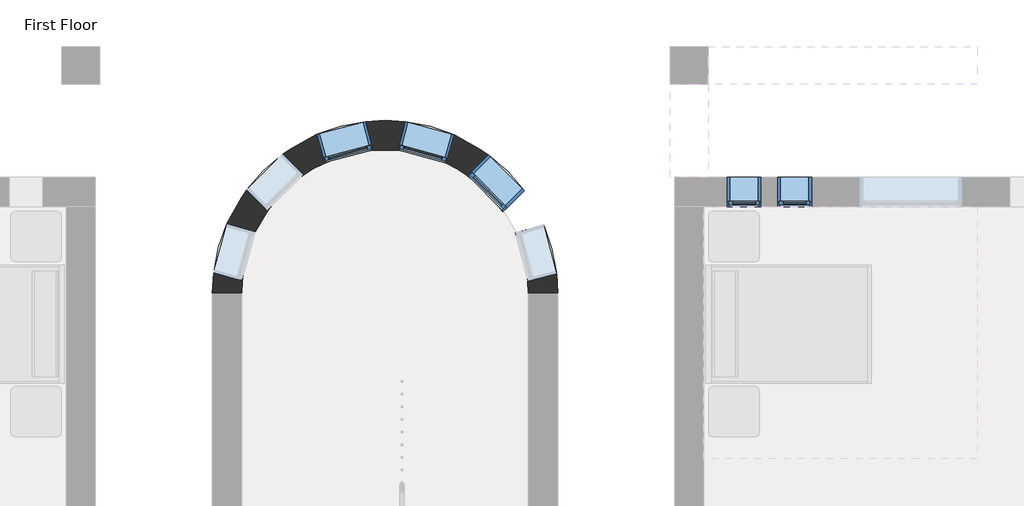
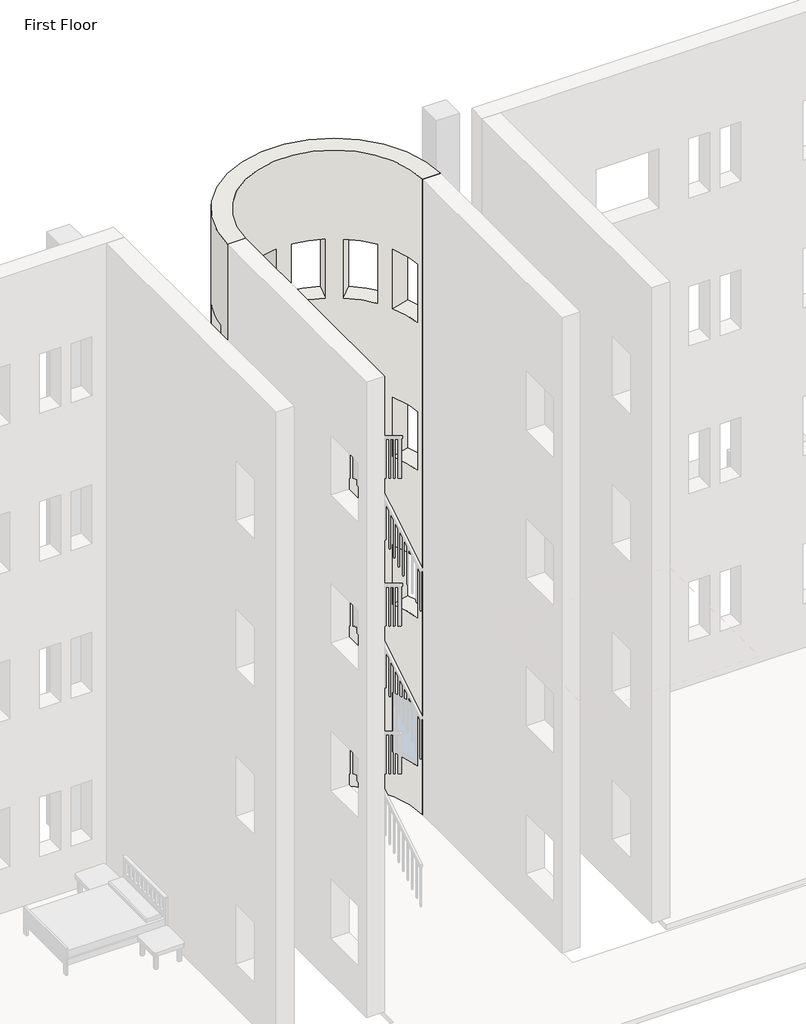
# One storey, part 15 of 21: 5 windows, 1 wall.
"""IFC4 building model written with IfcOpenShell, lengths in millimetres."""

from ifc_helpers import new_model, si_unit, frame, origin, place, context, project, spatial, polyline, circle_curve, transform, mapped, element, save
from ifc_brep_helpers import plane_surface, cylinder_surface, revolved_surface, advanced_brep
from components import window_da97879f, window_60baf983

model = new_model("IFC4")

# Units and contexts
model_context = context("Model", 3, world=origin())
ifc_project = project(units=[si_unit("LENGTHUNIT", "METRE", prefix="MILLI")], contexts=[model_context])

# Site, building, storey
site = spatial("IfcSite", under=ifc_project)
building = spatial("IfcBuilding", under=site)
storey = spatial("IfcBuildingStorey", under=building, Name="First Floor", Elevation=0.0)

# Wall
placement = place(None, origin())
element("IfcWall", 1, ObjectType="Exterior - Brick on Mtl. Stud", at=placement, inside=storey, context=model_context, shape_type="AdvancedBrep", body=[
    advanced_brep(
    [(-12980.9589563, 9227.0316867, 13106.4), (-17143.3839563, 9227.0316867, 13106.4), (-16790.9589563, 9227.0316867, 13106.4), (-13333.3839563, 9227.0316867, 13106.4), (-17143.3839563, 9227.0316867, 0.0), (-12980.9589563, 9227.0316867, 0.0), (-13333.3839563, 9227.0316867, 0.0), (-16790.9589563, 9227.0316867, 0.0), (-13149.9261748, 10048.4715527, 8229.6), (-13149.9261748, 10048.4715527, 7010.4), (-12993.9452701, 9459.1650812, 7010.4), (-12993.9452701, 9459.1650812, 8229.6), (-13816.8383973, 10894.5421191, 8229.6), (-13816.8383973, 10894.5421191, 7010.4), (-13387.1017356, 10462.1781965, 7010.4), (-13387.1017356, 10462.1781965, 8229.6), (-14817.4366072, 11293.8046118, 8229.6), (-14817.4366072, 11293.8046118, 7010.4), (-14229.0917799, 11134.234802, 7010.4), (-14229.0917799, 11134.234802, 8229.6), (-15883.6113224, 11139.2769682, 8229.6), (-15883.6113224, 11139.2769682, 7010.4), (-15294.3048508, 11295.2578729, 7010.4), (-15294.3048508, 11295.2578729, 8229.6), (-16729.6818887, 10472.3647457, 8229.6), (-16729.6818887, 10472.3647457, 7010.4), (-16297.3179661, 10902.1014074, 7010.4), (-16297.3179661, 10902.1014074, 8229.6), (-17128.9443814, 9471.7665358, 8229.6), (-17128.9443814, 9471.7665358, 7010.4), (-16969.3745716, 10060.1113631, 7010.4), (-16969.3745716, 10060.1113631, 8229.6), (-13149.9261748, 10048.4715527, 5181.6), (-13149.9261748, 10048.4715527, 3962.4), (-12993.9452701, 9459.1650812, 3962.4), (-12993.9452701, 9459.1650812, 5181.6), (-13816.8383973, 10894.5421191, 5181.6), (-13816.8383973, 10894.5421191, 3962.4), (-13387.1017356, 10462.1781965, 3962.4), (-13387.1017356, 10462.1781965, 5181.6), (-14817.4366072, 11293.8046118, 5181.6), (-14817.4366072, 11293.8046118, 3962.4), (-14229.0917799, 11134.234802, 3962.4), (-14229.0917799, 11134.234802, 5181.6), (-15883.6113224, 11139.2769682, 5181.6), (-15883.6113224, 11139.2769682, 3962.4), (-15294.3048508, 11295.2578729, 3962.4), (-15294.3048508, 11295.2578729, 5181.6), (-16729.6818887, 10472.3647457, 5181.6), (-16729.6818887, 10472.3647457, 3962.4), (-16297.3179661, 10902.1014074, 3962.4), (-16297.3179661, 10902.1014074, 5181.6), (-17128.9443814, 9471.7665358, 5181.6), (-17128.9443814, 9471.7665358, 3962.4), (-16969.3745716, 10060.1113631, 3962.4), (-16969.3745716, 10060.1113631, 5181.6), (-13149.9261748, 10048.4715527, 11277.6), (-13149.9261748, 10048.4715527, 10058.4), (-12993.9452701, 9459.1650812, 10058.4), (-12993.9452701, 9459.1650812, 11277.6), (-13816.8383973, 10894.5421191, 11277.6), (-13816.8383973, 10894.5421191, 10058.4), (-13387.1017356, 10462.1781965, 10058.4), (-13387.1017356, 10462.1781965, 11277.6), (-14817.4366072, 11293.8046118, 11277.6), (-14817.4366072, 11293.8046118, 10058.4), (-14229.0917799, 11134.234802, 10058.4), (-14229.0917799, 11134.234802, 11277.6), (-15883.6113224, 11139.2769682, 11277.6), (-15883.6113224, 11139.2769682, 10058.4), (-15294.3048508, 11295.2578729, 10058.4), (-15294.3048508, 11295.2578729, 11277.6), (-16729.6818887, 10472.3647457, 11277.6), (-16729.6818887, 10472.3647457, 10058.4), (-16297.3179661, 10902.1014074, 10058.4), (-16297.3179661, 10902.1014074, 11277.6), (-17128.9443814, 9471.7665358, 11277.6), (-17128.9443814, 9471.7665358, 10058.4), (-16969.3745716, 10060.1113631, 10058.4), (-16969.3745716, 10060.1113631, 11277.6), (-13149.9261748, 10048.4715527, 2133.6), (-13149.9261748, 10048.4715527, 914.4), (-12993.9452701, 9459.1650812, 914.4), (-12993.9452701, 9459.1650812, 2133.6), (-13816.8383973, 10894.5421191, 2133.6), (-13816.8383973, 10894.5421191, 914.4), (-13387.1017356, 10462.1781965, 914.4), (-13387.1017356, 10462.1781965, 2133.6), (-14817.4366072, 11293.8046118, 2133.6), (-14817.4366072, 11293.8046118, 914.4), (-14229.0917799, 11134.234802, 914.4), (-14229.0917799, 11134.234802, 2133.6), (-15883.6113224, 11139.2769682, 2133.6), (-15883.6113224, 11139.2769682, 914.4), (-15294.3048508, 11295.2578729, 914.4), (-15294.3048508, 11295.2578729, 2133.6), (-16729.6818887, 10472.3647457, 2133.6), (-16729.6818887, 10472.3647457, 914.4), (-16297.3179661, 10902.1014074, 914.4), (-16297.3179661, 10902.1014074, 2133.6), (-17128.9443814, 9471.7665358, 914.4), (-16969.3745716, 10060.1113631, 914.4), (-16969.3745716, 10060.1113631, 2133.6), (-17128.9443814, 9471.7665358, 2133.6), (-13495.1055834, 9957.1075528, 7010.4), (-13495.1055834, 9957.1075528, 8229.6), (-13339.1246787, 9367.8010813, 8229.6), (-13339.1246787, 9367.8010813, 7010.4), (-14070.090534, 10642.8288698, 7010.4), (-14070.090534, 10642.8288698, 8229.6), (-13640.3538723, 10210.4649472, 8229.6), (-13640.3538723, 10210.4649472, 7010.4), (-14910.9027666, 10949.188475, 7010.4), (-14910.9027666, 10949.188475, 8229.6), (-14322.5579393, 10789.6186653, 8229.6), (-14322.5579393, 10789.6186653, 7010.4), (-15792.2473224, 10794.0975596, 7010.4), (-15792.2473224, 10794.0975596, 8229.6), (-15202.9408509, 10950.0784643, 8229.6), (-15202.9408509, 10950.0784643, 7010.4), (-16477.9686395, 10219.112609, 7010.4), (-16477.9686395, 10219.112609, 8229.6), (-16045.6047169, 10648.8492707, 8229.6), (-16045.6047169, 10648.8492707, 7010.4), (-16784.3282447, 9378.3003764, 7010.4), (-16784.3282447, 9378.3003764, 8229.6), (-16624.7584349, 9966.6452037, 8229.6), (-16624.7584349, 9966.6452037, 7010.4), (-13495.1055834, 9957.1075528, 3962.4), (-13495.1055834, 9957.1075528, 5181.6), (-13339.1246787, 9367.8010813, 5181.6), (-13339.1246787, 9367.8010813, 3962.4), (-14070.090534, 10642.8288698, 3962.4), (-14070.090534, 10642.8288698, 5181.6), (-13640.3538723, 10210.4649472, 5181.6), (-13640.3538723, 10210.4649472, 3962.4), (-14910.9027666, 10949.188475, 3962.4), (-14910.9027666, 10949.188475, 5181.6), (-14322.5579393, 10789.6186653, 5181.6), (-14322.5579393, 10789.6186653, 3962.4), (-15792.2473224, 10794.0975596, 3962.4), (-15792.2473224, 10794.0975596, 5181.6), (-15202.9408509, 10950.0784643, 5181.6), (-15202.9408509, 10950.0784643, 3962.4), (-16477.9686395, 10219.112609, 3962.4), (-16477.9686395, 10219.112609, 5181.6), (-16045.6047169, 10648.8492707, 5181.6), (-16045.6047169, 10648.8492707, 3962.4), (-16784.3282447, 9378.3003764, 3962.4), (-16784.3282447, 9378.3003764, 5181.6), (-16624.7584349, 9966.6452037, 5181.6), (-16624.7584349, 9966.6452037, 3962.4), (-13495.1055834, 9957.1075528, 10058.4), (-13495.1055834, 9957.1075528, 11277.6), (-13339.1246787, 9367.8010813, 11277.6), (-13339.1246787, 9367.8010813, 10058.4), (-14070.090534, 10642.8288698, 10058.4), (-14070.090534, 10642.8288698, 11277.6), (-13640.3538723, 10210.4649472, 11277.6), (-13640.3538723, 10210.4649472, 10058.4), (-14910.9027666, 10949.188475, 10058.4), (-14910.9027666, 10949.188475, 11277.6), (-14322.5579393, 10789.6186653, 11277.6), (-14322.5579393, 10789.6186653, 10058.4), (-15792.2473224, 10794.0975596, 10058.4), (-15792.2473224, 10794.0975596, 11277.6), (-15202.9408509, 10950.0784643, 11277.6), (-15202.9408509, 10950.0784643, 10058.4), (-16477.9686395, 10219.112609, 10058.4), (-16477.9686395, 10219.112609, 11277.6), (-16045.6047169, 10648.8492707, 11277.6), (-16045.6047169, 10648.8492707, 10058.4), (-16784.3282447, 9378.3003764, 10058.4), (-16784.3282447, 9378.3003764, 11277.6), (-16624.7584349, 9966.6452037, 11277.6), (-16624.7584349, 9966.6452037, 10058.4), (-13495.1055834, 9957.1075528, 914.4), (-13495.1055834, 9957.1075528, 2133.6), (-13339.1246787, 9367.8010813, 2133.6), (-13339.1246787, 9367.8010813, 914.4), (-14070.090534, 10642.8288698, 914.4), (-14070.090534, 10642.8288698, 2133.6), (-13640.3538723, 10210.4649472, 2133.6), (-13640.3538723, 10210.4649472, 914.4), (-14910.9027666, 10949.188475, 914.4), (-14910.9027666, 10949.188475, 2133.6), (-14322.5579393, 10789.6186653, 2133.6), (-14322.5579393, 10789.6186653, 914.4), (-15792.2473224, 10794.0975596, 914.4), (-15792.2473224, 10794.0975596, 2133.6), (-15202.9408509, 10950.0784643, 2133.6), (-15202.9408509, 10950.0784643, 914.4), (-16477.9686395, 10219.112609, 914.4), (-16477.9686395, 10219.112609, 2133.6), (-16045.6047169, 10648.8492707, 2133.6), (-16045.6047169, 10648.8492707, 914.4), (-16624.7584349, 9966.6452037, 914.4), (-16784.3282447, 9378.3003764, 914.4), (-16784.3282447, 9378.3003764, 2133.6), (-16624.7584349, 9966.6452037, 2133.6)],
    [
        (0, 1, circle_curve(frame((-15062.1714563, 9227.0316867, 13106.4), z_axis=(0.0, 0.0, 1.0), x_axis=(1.0, 0.0, 0.0)), 2081.2125)),
        (1, 2),
        (2, 3, circle_curve(frame((-15062.1714563, 9227.0316867, 13106.4), z_axis=(0.0, 0.0, -1.0), x_axis=(1.0, 0.0, 0.0)), 1728.7875)),
        (3, 0),
        (4, 5, circle_curve(frame((-15062.1714563, 9227.0316867, 0.0), z_axis=(0.0, 0.0, -1.0), x_axis=(1.0, 0.0, 0.0)), 2081.2125)),
        (5, 6),
        (6, 7, circle_curve(frame((-15062.1714563, 9227.0316867, 0.0), z_axis=(0.0, 0.0, 1.0), x_axis=(1.0, 0.0, 0.0)), 1728.7875)),
        (7, 4),
        (0, 5),
        (4, 1),
        (8, 9),
        (9, 10, circle_curve(frame((-15062.1714563, 9227.0316867, 7010.4), z_axis=(0.0, 0.0, -1.0), x_axis=(1.0, 0.0, 0.0)), 2081.2125)),
        (10, 11),
        (11, 8, circle_curve(frame((-15062.1714563, 9227.0316867, 8229.6), z_axis=(0.0, 0.0, 1.0), x_axis=(1.0, 0.0, 0.0)), 2081.2125)),
        (12, 13),
        (13, 14, circle_curve(frame((-15062.1714563, 9227.0316867, 7010.4), z_axis=(0.0, 0.0, -1.0), x_axis=(1.0, 0.0, 0.0)), 2081.2125)),
        (14, 15),
        (15, 12, circle_curve(frame((-15062.1714563, 9227.0316867, 8229.6), z_axis=(0.0, 0.0, 1.0), x_axis=(1.0, 0.0, 0.0)), 2081.2125)),
        (16, 17),
        (17, 18, circle_curve(frame((-15062.1714563, 9227.0316867, 7010.4), z_axis=(0.0, 0.0, -1.0), x_axis=(1.0, 0.0, 0.0)), 2081.2125)),
        (18, 19),
        (19, 16, circle_curve(frame((-15062.1714563, 9227.0316867, 8229.6), z_axis=(0.0, 0.0, 1.0), x_axis=(1.0, 0.0, 0.0)), 2081.2125)),
        (20, 21),
        (21, 22, circle_curve(frame((-15062.1714563, 9227.0316867, 7010.4), z_axis=(0.0, 0.0, -1.0), x_axis=(1.0, 0.0, 0.0)), 2081.2125)),
        (22, 23),
        (23, 20, circle_curve(frame((-15062.1714563, 9227.0316867, 8229.6), z_axis=(0.0, 0.0, 1.0), x_axis=(1.0, 0.0, 0.0)), 2081.2125)),
        (24, 25),
        (25, 26, circle_curve(frame((-15062.1714563, 9227.0316867, 7010.4), z_axis=(0.0, 0.0, -1.0), x_axis=(1.0, 0.0, 0.0)), 2081.2125)),
        (26, 27),
        (27, 24, circle_curve(frame((-15062.1714563, 9227.0316867, 8229.6), z_axis=(0.0, 0.0, 1.0), x_axis=(1.0, 0.0, 0.0)), 2081.2125)),
        (28, 29),
        (29, 30, circle_curve(frame((-15062.1714563, 9227.0316867, 7010.4), z_axis=(0.0, 0.0, -1.0), x_axis=(1.0, 0.0, 0.0)), 2081.2125)),
        (30, 31),
        (31, 28, circle_curve(frame((-15062.1714563, 9227.0316867, 8229.6), z_axis=(0.0, 0.0, 1.0), x_axis=(1.0, 0.0, 0.0)), 2081.2125)),
        (32, 33),
        (33, 34, circle_curve(frame((-15062.1714563, 9227.0316867, 3962.4), z_axis=(0.0, 0.0, -1.0), x_axis=(1.0, 0.0, 0.0)), 2081.2125)),
        (34, 35),
        (35, 32, circle_curve(frame((-15062.1714563, 9227.0316867, 5181.6), z_axis=(0.0, 0.0, 1.0), x_axis=(1.0, 0.0, 0.0)), 2081.2125)),
        (36, 37),
        (37, 38, circle_curve(frame((-15062.1714563, 9227.0316867, 3962.4), z_axis=(0.0, 0.0, -1.0), x_axis=(1.0, 0.0, 0.0)), 2081.2125)),
        (38, 39),
        (39, 36, circle_curve(frame((-15062.1714563, 9227.0316867, 5181.6), z_axis=(0.0, 0.0, 1.0), x_axis=(1.0, 0.0, 0.0)), 2081.2125)),
        (40, 41),
        (41, 42, circle_curve(frame((-15062.1714563, 9227.0316867, 3962.4), z_axis=(0.0, 0.0, -1.0), x_axis=(1.0, 0.0, 0.0)), 2081.2125)),
        (42, 43),
        (43, 40, circle_curve(frame((-15062.1714563, 9227.0316867, 5181.6), z_axis=(0.0, 0.0, 1.0), x_axis=(1.0, 0.0, 0.0)), 2081.2125)),
        (44, 45),
        (45, 46, circle_curve(frame((-15062.1714563, 9227.0316867, 3962.4), z_axis=(0.0, 0.0, -1.0), x_axis=(1.0, 0.0, 0.0)), 2081.2125)),
        (46, 47),
        (47, 44, circle_curve(frame((-15062.1714563, 9227.0316867, 5181.6), z_axis=(0.0, 0.0, 1.0), x_axis=(1.0, 0.0, 0.0)), 2081.2125)),
        (48, 49),
        (49, 50, circle_curve(frame((-15062.1714563, 9227.0316867, 3962.4), z_axis=(0.0, 0.0, -1.0), x_axis=(1.0, 0.0, 0.0)), 2081.2125)),
        (50, 51),
        (51, 48, circle_curve(frame((-15062.1714563, 9227.0316867, 5181.6), z_axis=(0.0, 0.0, 1.0), x_axis=(1.0, 0.0, 0.0)), 2081.2125)),
        (52, 53),
        (53, 54, circle_curve(frame((-15062.1714563, 9227.0316867, 3962.4), z_axis=(0.0, 0.0, -1.0), x_axis=(1.0, 0.0, 0.0)), 2081.2125)),
        (54, 55),
        (55, 52, circle_curve(frame((-15062.1714563, 9227.0316867, 5181.6), z_axis=(0.0, 0.0, 1.0), x_axis=(1.0, 0.0, 0.0)), 2081.2125)),
        (56, 57),
        (57, 58, circle_curve(frame((-15062.1714563, 9227.0316867, 10058.4), z_axis=(0.0, 0.0, -1.0), x_axis=(1.0, 0.0, 0.0)), 2081.2125)),
        (58, 59),
        (59, 56, circle_curve(frame((-15062.1714563, 9227.0316867, 11277.6), z_axis=(0.0, 0.0, 1.0), x_axis=(1.0, 0.0, 0.0)), 2081.2125)),
        (60, 61),
        (61, 62, circle_curve(frame((-15062.1714563, 9227.0316867, 10058.4), z_axis=(0.0, 0.0, -1.0), x_axis=(1.0, 0.0, 0.0)), 2081.2125)),
        (62, 63),
        (63, 60, circle_curve(frame((-15062.1714563, 9227.0316867, 11277.6), z_axis=(0.0, 0.0, 1.0), x_axis=(1.0, 0.0, 0.0)), 2081.2125)),
        (64, 65),
        (65, 66, circle_curve(frame((-15062.1714563, 9227.0316867, 10058.4), z_axis=(0.0, 0.0, -1.0), x_axis=(1.0, 0.0, 0.0)), 2081.2125)),
        (66, 67),
        (67, 64, circle_curve(frame((-15062.1714563, 9227.0316867, 11277.6), z_axis=(0.0, 0.0, 1.0), x_axis=(1.0, 0.0, 0.0)), 2081.2125)),
        (68, 69),
        (69, 70, circle_curve(frame((-15062.1714563, 9227.0316867, 10058.4), z_axis=(0.0, 0.0, -1.0), x_axis=(1.0, 0.0, 0.0)), 2081.2125)),
        (70, 71),
        (71, 68, circle_curve(frame((-15062.1714563, 9227.0316867, 11277.6), z_axis=(0.0, 0.0, 1.0), x_axis=(1.0, 0.0, 0.0)), 2081.2125)),
        (72, 73),
        (73, 74, circle_curve(frame((-15062.1714563, 9227.0316867, 10058.4), z_axis=(0.0, 0.0, -1.0), x_axis=(1.0, 0.0, 0.0)), 2081.2125)),
        (74, 75),
        (75, 72, circle_curve(frame((-15062.1714563, 9227.0316867, 11277.6), z_axis=(0.0, 0.0, 1.0), x_axis=(1.0, 0.0, 0.0)), 2081.2125)),
        (76, 77),
        (77, 78, circle_curve(frame((-15062.1714563, 9227.0316867, 10058.4), z_axis=(0.0, 0.0, -1.0), x_axis=(1.0, 0.0, 0.0)), 2081.2125)),
        (78, 79),
        (79, 76, circle_curve(frame((-15062.1714563, 9227.0316867, 11277.6), z_axis=(0.0, 0.0, 1.0), x_axis=(1.0, 0.0, 0.0)), 2081.2125)),
        (80, 81),
        (81, 82, circle_curve(frame((-15062.1714563, 9227.0316867, 914.4), z_axis=(0.0, 0.0, -1.0), x_axis=(1.0, 0.0, 0.0)), 2081.2125)),
        (82, 83),
        (83, 80, circle_curve(frame((-15062.1714563, 9227.0316867, 2133.6), z_axis=(0.0, 0.0, 1.0), x_axis=(1.0, 0.0, 0.0)), 2081.2125)),
        (84, 85),
        (85, 86, circle_curve(frame((-15062.1714563, 9227.0316867, 914.4), z_axis=(0.0, 0.0, -1.0), x_axis=(1.0, 0.0, 0.0)), 2081.2125)),
        (86, 87),
        (87, 84, circle_curve(frame((-15062.1714563, 9227.0316867, 2133.6), z_axis=(0.0, 0.0, 1.0), x_axis=(1.0, 0.0, 0.0)), 2081.2125)),
        (88, 89),
        (89, 90, circle_curve(frame((-15062.1714563, 9227.0316867, 914.4), z_axis=(0.0, 0.0, -1.0), x_axis=(1.0, 0.0, 0.0)), 2081.2125)),
        (90, 91),
        (91, 88, circle_curve(frame((-15062.1714563, 9227.0316867, 2133.6), z_axis=(0.0, 0.0, 1.0), x_axis=(1.0, 0.0, 0.0)), 2081.2125)),
        (92, 93),
        (93, 94, circle_curve(frame((-15062.1714563, 9227.0316867, 914.4), z_axis=(0.0, 0.0, -1.0), x_axis=(1.0, 0.0, 0.0)), 2081.2125)),
        (94, 95),
        (95, 92, circle_curve(frame((-15062.1714563, 9227.0316867, 2133.6), z_axis=(0.0, 0.0, 1.0), x_axis=(1.0, 0.0, 0.0)), 2081.2125)),
        (96, 97),
        (97, 98, circle_curve(frame((-15062.1714563, 9227.0316867, 914.4), z_axis=(0.0, 0.0, -1.0), x_axis=(1.0, 0.0, 0.0)), 2081.2125)),
        (98, 99),
        (99, 96, circle_curve(frame((-15062.1714563, 9227.0316867, 2133.6), z_axis=(0.0, 0.0, 1.0), x_axis=(1.0, 0.0, 0.0)), 2081.2125)),
        (100, 101, circle_curve(frame((-15062.1714563, 9227.0316867, 914.4), z_axis=(0.0, 0.0, -1.0), x_axis=(1.0, 0.0, 0.0)), 2081.2125)),
        (101, 102),
        (102, 103, circle_curve(frame((-15062.1714563, 9227.0316867, 2133.6), z_axis=(0.0, 0.0, 1.0), x_axis=(1.0, 0.0, 0.0)), 2081.2125)),
        (103, 100),
        (7, 2),
        (6, 3),
        (104, 105),
        (105, 106, circle_curve(frame((-15062.1714563, 9227.0316867, 8229.6), z_axis=(0.0, 0.0, -1.0), x_axis=(1.0, 0.0, 0.0)), 1728.7875)),
        (106, 107),
        (107, 104, circle_curve(frame((-15062.1714563, 9227.0316867, 7010.4), z_axis=(0.0, 0.0, 1.0), x_axis=(1.0, 0.0, 0.0)), 1728.7875)),
        (108, 109),
        (109, 110, circle_curve(frame((-15062.1714563, 9227.0316867, 8229.6), z_axis=(0.0, 0.0, -1.0), x_axis=(1.0, 0.0, 0.0)), 1728.7875)),
        (110, 111),
        (111, 108, circle_curve(frame((-15062.1714563, 9227.0316867, 7010.4), z_axis=(0.0, 0.0, 1.0), x_axis=(1.0, 0.0, 0.0)), 1728.7875)),
        (112, 113),
        (113, 114, circle_curve(frame((-15062.1714563, 9227.0316867, 8229.6), z_axis=(0.0, 0.0, -1.0), x_axis=(1.0, 0.0, 0.0)), 1728.7875)),
        (114, 115),
        (115, 112, circle_curve(frame((-15062.1714563, 9227.0316867, 7010.4), z_axis=(0.0, 0.0, 1.0), x_axis=(1.0, 0.0, 0.0)), 1728.7875)),
        (116, 117),
        (117, 118, circle_curve(frame((-15062.1714563, 9227.0316867, 8229.6), z_axis=(0.0, 0.0, -1.0), x_axis=(1.0, 0.0, 0.0)), 1728.7875)),
        (118, 119),
        (119, 116, circle_curve(frame((-15062.1714563, 9227.0316867, 7010.4), z_axis=(0.0, 0.0, 1.0), x_axis=(1.0, 0.0, 0.0)), 1728.7875)),
        (120, 121),
        (121, 122, circle_curve(frame((-15062.1714563, 9227.0316867, 8229.6), z_axis=(0.0, 0.0, -1.0), x_axis=(1.0, 0.0, 0.0)), 1728.7875)),
        (122, 123),
        (123, 120, circle_curve(frame((-15062.1714563, 9227.0316867, 7010.4), z_axis=(0.0, 0.0, 1.0), x_axis=(1.0, 0.0, 0.0)), 1728.7875)),
        (124, 125),
        (125, 126, circle_curve(frame((-15062.1714563, 9227.0316867, 8229.6), z_axis=(0.0, 0.0, -1.0), x_axis=(1.0, 0.0, 0.0)), 1728.7875)),
        (126, 127),
        (127, 124, circle_curve(frame((-15062.1714563, 9227.0316867, 7010.4), z_axis=(0.0, 0.0, 1.0), x_axis=(1.0, 0.0, 0.0)), 1728.7875)),
        (128, 129),
        (129, 130, circle_curve(frame((-15062.1714563, 9227.0316867, 5181.6), z_axis=(0.0, 0.0, -1.0), x_axis=(1.0, 0.0, 0.0)), 1728.7875)),
        (130, 131),
        (131, 128, circle_curve(frame((-15062.1714563, 9227.0316867, 3962.4), z_axis=(0.0, 0.0, 1.0), x_axis=(1.0, 0.0, 0.0)), 1728.7875)),
        (132, 133),
        (133, 134, circle_curve(frame((-15062.1714563, 9227.0316867, 5181.6), z_axis=(0.0, 0.0, -1.0), x_axis=(1.0, 0.0, 0.0)), 1728.7875)),
        (134, 135),
        (135, 132, circle_curve(frame((-15062.1714563, 9227.0316867, 3962.4), z_axis=(0.0, 0.0, 1.0), x_axis=(1.0, 0.0, 0.0)), 1728.7875)),
        (136, 137),
        (137, 138, circle_curve(frame((-15062.1714563, 9227.0316867, 5181.6), z_axis=(0.0, 0.0, -1.0), x_axis=(1.0, 0.0, 0.0)), 1728.7875)),
        (138, 139),
        (139, 136, circle_curve(frame((-15062.1714563, 9227.0316867, 3962.4), z_axis=(0.0, 0.0, 1.0), x_axis=(1.0, 0.0, 0.0)), 1728.7875)),
        (140, 141),
        (141, 142, circle_curve(frame((-15062.1714563, 9227.0316867, 5181.6), z_axis=(0.0, 0.0, -1.0), x_axis=(1.0, 0.0, 0.0)), 1728.7875)),
        (142, 143),
        (143, 140, circle_curve(frame((-15062.1714563, 9227.0316867, 3962.4), z_axis=(0.0, 0.0, 1.0), x_axis=(1.0, 0.0, 0.0)), 1728.7875)),
        (144, 145),
        (145, 146, circle_curve(frame((-15062.1714563, 9227.0316867, 5181.6), z_axis=(0.0, 0.0, -1.0), x_axis=(1.0, 0.0, 0.0)), 1728.7875)),
        (146, 147),
        (147, 144, circle_curve(frame((-15062.1714563, 9227.0316867, 3962.4), z_axis=(0.0, 0.0, 1.0), x_axis=(1.0, 0.0, 0.0)), 1728.7875)),
        (148, 149),
        (149, 150, circle_curve(frame((-15062.1714563, 9227.0316867, 5181.6), z_axis=(0.0, 0.0, -1.0), x_axis=(1.0, 0.0, 0.0)), 1728.7875)),
        (150, 151),
        (151, 148, circle_curve(frame((-15062.1714563, 9227.0316867, 3962.4), z_axis=(0.0, 0.0, 1.0), x_axis=(1.0, 0.0, 0.0)), 1728.7875)),
        (152, 153),
        (153, 154, circle_curve(frame((-15062.1714563, 9227.0316867, 11277.6), z_axis=(0.0, 0.0, -1.0), x_axis=(1.0, 0.0, 0.0)), 1728.7875)),
        (154, 155),
        (155, 152, circle_curve(frame((-15062.1714563, 9227.0316867, 10058.4), z_axis=(0.0, 0.0, 1.0), x_axis=(1.0, 0.0, 0.0)), 1728.7875)),
        (156, 157),
        (157, 158, circle_curve(frame((-15062.1714563, 9227.0316867, 11277.6), z_axis=(0.0, 0.0, -1.0), x_axis=(1.0, 0.0, 0.0)), 1728.7875)),
        (158, 159),
        (159, 156, circle_curve(frame((-15062.1714563, 9227.0316867, 10058.4), z_axis=(0.0, 0.0, 1.0), x_axis=(1.0, 0.0, 0.0)), 1728.7875)),
        (160, 161),
        (161, 162, circle_curve(frame((-15062.1714563, 9227.0316867, 11277.6), z_axis=(0.0, 0.0, -1.0), x_axis=(1.0, 0.0, 0.0)), 1728.7875)),
        (162, 163),
        (163, 160, circle_curve(frame((-15062.1714563, 9227.0316867, 10058.4), z_axis=(0.0, 0.0, 1.0), x_axis=(1.0, 0.0, 0.0)), 1728.7875)),
        (164, 165),
        (165, 166, circle_curve(frame((-15062.1714563, 9227.0316867, 11277.6), z_axis=(0.0, 0.0, -1.0), x_axis=(1.0, 0.0, 0.0)), 1728.7875)),
        (166, 167),
        (167, 164, circle_curve(frame((-15062.1714563, 9227.0316867, 10058.4), z_axis=(0.0, 0.0, 1.0), x_axis=(1.0, 0.0, 0.0)), 1728.7875)),
        (168, 169),
        (169, 170, circle_curve(frame((-15062.1714563, 9227.0316867, 11277.6), z_axis=(0.0, 0.0, -1.0), x_axis=(1.0, 0.0, 0.0)), 1728.7875)),
        (170, 171),
        (171, 168, circle_curve(frame((-15062.1714563, 9227.0316867, 10058.4), z_axis=(0.0, 0.0, 1.0), x_axis=(1.0, 0.0, 0.0)), 1728.7875)),
        (172, 173),
        (173, 174, circle_curve(frame((-15062.1714563, 9227.0316867, 11277.6), z_axis=(0.0, 0.0, -1.0), x_axis=(1.0, 0.0, 0.0)), 1728.7875)),
        (174, 175),
        (175, 172, circle_curve(frame((-15062.1714563, 9227.0316867, 10058.4), z_axis=(0.0, 0.0, 1.0), x_axis=(1.0, 0.0, 0.0)), 1728.7875)),
        (176, 177),
        (177, 178, circle_curve(frame((-15062.1714563, 9227.0316867, 2133.6), z_axis=(0.0, 0.0, -1.0), x_axis=(1.0, 0.0, 0.0)), 1728.7875)),
        (178, 179),
        (179, 176, circle_curve(frame((-15062.1714563, 9227.0316867, 914.4), z_axis=(0.0, 0.0, 1.0), x_axis=(1.0, 0.0, 0.0)), 1728.7875)),
        (180, 181),
        (181, 182, circle_curve(frame((-15062.1714563, 9227.0316867, 2133.6), z_axis=(0.0, 0.0, -1.0), x_axis=(1.0, 0.0, 0.0)), 1728.7875)),
        (182, 183),
        (183, 180, circle_curve(frame((-15062.1714563, 9227.0316867, 914.4), z_axis=(0.0, 0.0, 1.0), x_axis=(1.0, 0.0, 0.0)), 1728.7875)),
        (184, 185),
        (185, 186, circle_curve(frame((-15062.1714563, 9227.0316867, 2133.6), z_axis=(0.0, 0.0, -1.0), x_axis=(1.0, 0.0, 0.0)), 1728.7875)),
        (186, 187),
        (187, 184, circle_curve(frame((-15062.1714563, 9227.0316867, 914.4), z_axis=(0.0, 0.0, 1.0), x_axis=(1.0, 0.0, 0.0)), 1728.7875)),
        (188, 189),
        (189, 190, circle_curve(frame((-15062.1714563, 9227.0316867, 2133.6), z_axis=(0.0, 0.0, -1.0), x_axis=(1.0, 0.0, 0.0)), 1728.7875)),
        (190, 191),
        (191, 188, circle_curve(frame((-15062.1714563, 9227.0316867, 914.4), z_axis=(0.0, 0.0, 1.0), x_axis=(1.0, 0.0, 0.0)), 1728.7875)),
        (192, 193),
        (193, 194, circle_curve(frame((-15062.1714563, 9227.0316867, 2133.6), z_axis=(0.0, 0.0, -1.0), x_axis=(1.0, 0.0, 0.0)), 1728.7875)),
        (194, 195),
        (195, 192, circle_curve(frame((-15062.1714563, 9227.0316867, 914.4), z_axis=(0.0, 0.0, 1.0), x_axis=(1.0, 0.0, 0.0)), 1728.7875)),
        (196, 197, circle_curve(frame((-15062.1714563, 9227.0316867, 914.4), z_axis=(0.0, 0.0, 1.0), x_axis=(1.0, 0.0, 0.0)), 1728.7875)),
        (197, 198),
        (198, 199, circle_curve(frame((-15062.1714563, 9227.0316867, 2133.6), z_axis=(0.0, 0.0, -1.0), x_axis=(1.0, 0.0, 0.0)), 1728.7875)),
        (199, 196),
        (8, 105),
        (104, 9),
        (107, 10),
        (106, 11),
        (12, 109),
        (108, 13),
        (111, 14),
        (110, 15),
        (16, 113),
        (112, 17),
        (115, 18),
        (114, 19),
        (20, 117),
        (116, 21),
        (119, 22),
        (118, 23),
        (24, 121),
        (120, 25),
        (123, 26),
        (122, 27),
        (28, 125),
        (124, 29),
        (127, 30),
        (126, 31),
        (32, 129),
        (128, 33),
        (131, 34),
        (130, 35),
        (36, 133),
        (132, 37),
        (135, 38),
        (134, 39),
        (40, 137),
        (136, 41),
        (139, 42),
        (138, 43),
        (44, 141),
        (140, 45),
        (143, 46),
        (142, 47),
        (48, 145),
        (144, 49),
        (147, 50),
        (146, 51),
        (52, 149),
        (148, 53),
        (151, 54),
        (150, 55),
        (56, 153),
        (152, 57),
        (155, 58),
        (154, 59),
        (60, 157),
        (156, 61),
        (159, 62),
        (158, 63),
        (64, 161),
        (160, 65),
        (163, 66),
        (162, 67),
        (68, 165),
        (164, 69),
        (167, 70),
        (166, 71),
        (72, 169),
        (168, 73),
        (171, 74),
        (170, 75),
        (76, 173),
        (172, 77),
        (175, 78),
        (174, 79),
        (80, 177),
        (176, 81),
        (179, 82),
        (178, 83),
        (84, 181),
        (180, 85),
        (183, 86),
        (182, 87),
        (88, 185),
        (184, 89),
        (187, 90),
        (186, 91),
        (92, 189),
        (188, 93),
        (191, 94),
        (190, 95),
        (96, 193),
        (192, 97),
        (195, 98),
        (194, 99),
        (197, 100),
        (103, 198),
        (196, 101),
        (199, 102),
    ],
    [
        plane_surface(frame((-12980.9589563, 9227.0316867, 13106.4), z_axis=(0.0, 0.0, 1.0), x_axis=(0.0, 1.0, 0.0))),
        plane_surface(frame((-12980.9589563, 9227.0316867, 0.0), z_axis=(0.0, 0.0, -1.0), x_axis=(0.0, -1.0, 0.0))),
        cylinder_surface(frame((-15062.1714563, 9227.0316867, 0.0), z_axis=(0.0, 0.0, 1.0), x_axis=(1.0, 0.0, 0.0)), 2081.2125),
        plane_surface(frame((-17143.3839563, 9227.0316867, 13106.4), z_axis=(0.0, -1.0, 0.0), x_axis=(0.0, 0.0, -1.0))),
        revolved_surface(polyline([(-13333.3839563, 9227.0316867, 0.0), (-13333.3839563, 9227.0316867, 13106.4)]), (-15062.1714563, 9227.0316867, 0.0), (0.0, 0.0, -1.0)),
        plane_surface(frame((-13333.3839563, 9227.0316867, 13106.4), z_axis=(0.0, -1.0, 0.0), x_axis=(0.0, 0.0, -1.0))),
        plane_surface(frame((-13149.9261748, 10048.4715527, 8229.6), z_axis=(0.25587418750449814, -0.9667100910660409, 0.0), x_axis=(-0.9667100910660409, -0.25587418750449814, 0.0))),
        plane_surface(frame((-13149.9261748, 10048.4715527, 7010.4), z_axis=(0.0, 0.0, 1.0), x_axis=(-0.9667100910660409, -0.25587418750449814, 0.0))),
        plane_surface(frame((-12993.9452701, 9459.1650812, 7010.4), z_axis=(-0.2558741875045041, 0.9667100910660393, 0.0), x_axis=(-0.9667100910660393, -0.2558741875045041, 0.0))),
        plane_surface(frame((-12993.9452701, 9459.1650812, 8229.6), z_axis=(0.0, 0.0, -1.0000000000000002), x_axis=(-0.9667100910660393, -0.2558741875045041, 0.0))),
        plane_surface(frame((-13816.8383973, 10894.5421191, 8229.6), z_axis=(0.7049485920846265, -0.7092584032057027, 0.0), x_axis=(-0.7092584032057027, -0.7049485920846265, 0.0))),
        plane_surface(frame((-13816.8383973, 10894.5421191, 7010.4), z_axis=(0.0, 0.0, 1.0000000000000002), x_axis=(-0.7092584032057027, -0.7049485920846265, 0.0))),
        plane_surface(frame((-13387.1017356, 10462.1781965, 7010.4), z_axis=(-0.7049485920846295, 0.7092584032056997, 0.0), x_axis=(-0.7092584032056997, -0.7049485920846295, 0.0))),
        plane_surface(frame((-13387.1017356, 10462.1781965, 8229.6), z_axis=(0.0, 0.0, -1.0000000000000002), x_axis=(-0.7092584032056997, -0.7049485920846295, 0.0))),
        plane_surface(frame((-14817.4366072, 11293.8046118, 8229.6), z_axis=(0.9651325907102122, -0.2617614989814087, 0.0), x_axis=(-0.2617614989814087, -0.9651325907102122, 0.0))),
        plane_surface(frame((-14817.4366072, 11293.8046118, 7010.4), z_axis=(0.0, 0.0, 1.0), x_axis=(-0.2617614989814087, -0.9651325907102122, 0.0))),
        plane_surface(frame((-14229.0917799, 11134.234802, 7010.4), z_axis=(-0.965132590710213, 0.26176149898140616, 0.0), x_axis=(-0.26176149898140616, -0.965132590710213, 0.0))),
        plane_surface(frame((-14229.0917799, 11134.234802, 8229.6), z_axis=(0.0, 0.0, -1.0000000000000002), x_axis=(-0.26176149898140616, -0.965132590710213, 0.0))),
        plane_surface(frame((-15883.6113224, 11139.2769682, 8229.6), z_axis=(0.9667100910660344, 0.25587418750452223, 0.0), x_axis=(0.25587418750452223, -0.9667100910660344, 0.0))),
        plane_surface(frame((-15883.6113224, 11139.2769682, 7010.4), z_axis=(0.0, 0.0, 1.0), x_axis=(0.25587418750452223, -0.9667100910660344, 0.0))),
        plane_surface(frame((-15294.3048508, 11295.2578729, 7010.4), z_axis=(-0.9667100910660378, -0.2558741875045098, 0.0), x_axis=(0.2558741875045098, -0.9667100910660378, 0.0))),
        plane_surface(frame((-15294.3048508, 11295.2578729, 8229.6), z_axis=(0.0, 0.0, -1.0), x_axis=(0.2558741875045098, -0.9667100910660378, 0.0))),
        plane_surface(frame((-16729.6818887, 10472.3647457, 8229.6), z_axis=(0.7092584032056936, 0.7049485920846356, 0.0), x_axis=(0.7049485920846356, -0.7092584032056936, 0.0))),
        plane_surface(frame((-16729.6818887, 10472.3647457, 7010.4), z_axis=(0.0, 0.0, 1.0), x_axis=(0.7049485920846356, -0.7092584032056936, 0.0))),
        plane_surface(frame((-16297.3179661, 10902.1014074, 7010.4), z_axis=(-0.7092584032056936, -0.7049485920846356, 0.0), x_axis=(0.7049485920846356, -0.7092584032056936, 0.0))),
        plane_surface(frame((-16297.3179661, 10902.1014074, 8229.6), z_axis=(0.0, 0.0, -1.0), x_axis=(0.7049485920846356, -0.7092584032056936, 0.0))),
        plane_surface(frame((-17128.9443814, 9471.7665358, 8229.6), z_axis=(0.26176149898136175, 0.965132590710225, 0.0), x_axis=(0.965132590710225, -0.26176149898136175, 0.0))),
        plane_surface(frame((-17128.9443814, 9471.7665358, 7010.4), z_axis=(0.0, 0.0, 1.0), x_axis=(0.965132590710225, -0.26176149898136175, 0.0))),
        plane_surface(frame((-16969.3745716, 10060.1113631, 7010.4), z_axis=(-0.261761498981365, -0.9651325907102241, 0.0), x_axis=(0.9651325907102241, -0.261761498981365, 0.0))),
        plane_surface(frame((-16969.3745716, 10060.1113631, 8229.6), z_axis=(0.0, 0.0, -1.0), x_axis=(0.9651325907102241, -0.261761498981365, 0.0))),
        plane_surface(frame((-13149.9261748, 10048.4715527, 5181.6), z_axis=(0.25587418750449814, -0.9667100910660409, 0.0), x_axis=(-0.9667100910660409, -0.25587418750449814, 0.0))),
        plane_surface(frame((-13149.9261748, 10048.4715527, 3962.4), z_axis=(0.0, 0.0, 1.0), x_axis=(-0.9667100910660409, -0.25587418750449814, 0.0))),
        plane_surface(frame((-12993.9452701, 9459.1650812, 3962.4), z_axis=(-0.2558741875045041, 0.9667100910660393, 0.0), x_axis=(-0.9667100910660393, -0.2558741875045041, 0.0))),
        plane_surface(frame((-12993.9452701, 9459.1650812, 5181.6), z_axis=(0.0, 0.0, -1.0000000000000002), x_axis=(-0.9667100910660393, -0.2558741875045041, 0.0))),
        plane_surface(frame((-13816.8383973, 10894.5421191, 5181.6), z_axis=(0.7049485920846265, -0.7092584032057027, 0.0), x_axis=(-0.7092584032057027, -0.7049485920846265, 0.0))),
        plane_surface(frame((-13816.8383973, 10894.5421191, 3962.4), z_axis=(0.0, 0.0, 1.0000000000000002), x_axis=(-0.7092584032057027, -0.7049485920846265, 0.0))),
        plane_surface(frame((-13387.1017356, 10462.1781965, 3962.4), z_axis=(-0.7049485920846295, 0.7092584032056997, 0.0), x_axis=(-0.7092584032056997, -0.7049485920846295, 0.0))),
        plane_surface(frame((-13387.1017356, 10462.1781965, 5181.6), z_axis=(0.0, 0.0, -1.0000000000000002), x_axis=(-0.7092584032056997, -0.7049485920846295, 0.0))),
        plane_surface(frame((-14817.4366072, 11293.8046118, 5181.6), z_axis=(0.9651325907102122, -0.2617614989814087, 0.0), x_axis=(-0.2617614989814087, -0.9651325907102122, 0.0))),
        plane_surface(frame((-14817.4366072, 11293.8046118, 3962.4), z_axis=(0.0, 0.0, 1.0), x_axis=(-0.2617614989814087, -0.9651325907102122, 0.0))),
        plane_surface(frame((-14229.0917799, 11134.234802, 3962.4), z_axis=(-0.965132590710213, 0.26176149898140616, 0.0), x_axis=(-0.26176149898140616, -0.965132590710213, 0.0))),
        plane_surface(frame((-14229.0917799, 11134.234802, 5181.6), z_axis=(0.0, 0.0, -1.0000000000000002), x_axis=(-0.26176149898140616, -0.965132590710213, 0.0))),
        plane_surface(frame((-15883.6113224, 11139.2769682, 5181.6), z_axis=(0.9667100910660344, 0.25587418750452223, 0.0), x_axis=(0.25587418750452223, -0.9667100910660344, 0.0))),
        plane_surface(frame((-15883.6113224, 11139.2769682, 3962.4), z_axis=(0.0, 0.0, 1.0), x_axis=(0.25587418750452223, -0.9667100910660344, 0.0))),
        plane_surface(frame((-15294.3048508, 11295.2578729, 3962.4), z_axis=(-0.9667100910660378, -0.2558741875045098, 0.0), x_axis=(0.2558741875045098, -0.9667100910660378, 0.0))),
        plane_surface(frame((-15294.3048508, 11295.2578729, 5181.6), z_axis=(0.0, 0.0, -1.0), x_axis=(0.2558741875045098, -0.9667100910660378, 0.0))),
        plane_surface(frame((-16729.6818887, 10472.3647457, 5181.6), z_axis=(0.7092584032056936, 0.7049485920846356, 0.0), x_axis=(0.7049485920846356, -0.7092584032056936, 0.0))),
        plane_surface(frame((-16729.6818887, 10472.3647457, 3962.4), z_axis=(0.0, 0.0, 1.0), x_axis=(0.7049485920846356, -0.7092584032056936, 0.0))),
        plane_surface(frame((-16297.3179661, 10902.1014074, 3962.4), z_axis=(-0.7092584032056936, -0.7049485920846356, 0.0), x_axis=(0.7049485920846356, -0.7092584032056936, 0.0))),
        plane_surface(frame((-16297.3179661, 10902.1014074, 5181.6), z_axis=(0.0, 0.0, -1.0), x_axis=(0.7049485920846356, -0.7092584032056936, 0.0))),
        plane_surface(frame((-17128.9443814, 9471.7665358, 5181.6), z_axis=(0.26176149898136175, 0.965132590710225, 0.0), x_axis=(0.965132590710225, -0.26176149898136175, 0.0))),
        plane_surface(frame((-17128.9443814, 9471.7665358, 3962.4), z_axis=(0.0, 0.0, 1.0), x_axis=(0.965132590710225, -0.26176149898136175, 0.0))),
        plane_surface(frame((-16969.3745716, 10060.1113631, 3962.4), z_axis=(-0.261761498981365, -0.9651325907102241, 0.0), x_axis=(0.9651325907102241, -0.261761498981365, 0.0))),
        plane_surface(frame((-16969.3745716, 10060.1113631, 5181.6), z_axis=(0.0, 0.0, -1.0), x_axis=(0.9651325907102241, -0.261761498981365, 0.0))),
        plane_surface(frame((-13149.9261748, 10048.4715527, 11277.6), z_axis=(0.25587418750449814, -0.9667100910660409, 0.0), x_axis=(-0.9667100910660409, -0.25587418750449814, 0.0))),
        plane_surface(frame((-13149.9261748, 10048.4715527, 10058.4), z_axis=(0.0, 0.0, 1.0), x_axis=(-0.9667100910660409, -0.25587418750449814, 0.0))),
        plane_surface(frame((-12993.9452701, 9459.1650812, 10058.4), z_axis=(-0.2558741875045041, 0.9667100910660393, 0.0), x_axis=(-0.9667100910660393, -0.2558741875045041, 0.0))),
        plane_surface(frame((-12993.9452701, 9459.1650812, 11277.6), z_axis=(0.0, 0.0, -1.0000000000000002), x_axis=(-0.9667100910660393, -0.2558741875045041, 0.0))),
        plane_surface(frame((-13816.8383973, 10894.5421191, 11277.6), z_axis=(0.7049485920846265, -0.7092584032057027, 0.0), x_axis=(-0.7092584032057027, -0.7049485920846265, 0.0))),
        plane_surface(frame((-13816.8383973, 10894.5421191, 10058.4), z_axis=(0.0, 0.0, 1.0000000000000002), x_axis=(-0.7092584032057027, -0.7049485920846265, 0.0))),
        plane_surface(frame((-13387.1017356, 10462.1781965, 10058.4), z_axis=(-0.7049485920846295, 0.7092584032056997, 0.0), x_axis=(-0.7092584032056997, -0.7049485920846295, 0.0))),
        plane_surface(frame((-13387.1017356, 10462.1781965, 11277.6), z_axis=(0.0, 0.0, -1.0000000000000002), x_axis=(-0.7092584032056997, -0.7049485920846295, 0.0))),
        plane_surface(frame((-14817.4366072, 11293.8046118, 11277.6), z_axis=(0.9651325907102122, -0.2617614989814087, 0.0), x_axis=(-0.2617614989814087, -0.9651325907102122, 0.0))),
        plane_surface(frame((-14817.4366072, 11293.8046118, 10058.4), z_axis=(0.0, 0.0, 1.0), x_axis=(-0.2617614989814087, -0.9651325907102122, 0.0))),
        plane_surface(frame((-14229.0917799, 11134.234802, 10058.4), z_axis=(-0.965132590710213, 0.26176149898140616, 0.0), x_axis=(-0.26176149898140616, -0.965132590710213, 0.0))),
        plane_surface(frame((-14229.0917799, 11134.234802, 11277.6), z_axis=(0.0, 0.0, -1.0000000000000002), x_axis=(-0.26176149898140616, -0.965132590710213, 0.0))),
        plane_surface(frame((-15883.6113224, 11139.2769682, 11277.6), z_axis=(0.9667100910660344, 0.25587418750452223, 0.0), x_axis=(0.25587418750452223, -0.9667100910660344, 0.0))),
        plane_surface(frame((-15883.6113224, 11139.2769682, 10058.4), z_axis=(0.0, 0.0, 1.0), x_axis=(0.25587418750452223, -0.9667100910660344, 0.0))),
        plane_surface(frame((-15294.3048508, 11295.2578729, 10058.4), z_axis=(-0.9667100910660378, -0.2558741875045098, 0.0), x_axis=(0.2558741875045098, -0.9667100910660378, 0.0))),
        plane_surface(frame((-15294.3048508, 11295.2578729, 11277.6), z_axis=(0.0, 0.0, -1.0), x_axis=(0.2558741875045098, -0.9667100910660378, 0.0))),
        plane_surface(frame((-16729.6818887, 10472.3647457, 11277.6), z_axis=(0.7092584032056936, 0.7049485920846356, 0.0), x_axis=(0.7049485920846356, -0.7092584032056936, 0.0))),
        plane_surface(frame((-16729.6818887, 10472.3647457, 10058.4), z_axis=(0.0, 0.0, 1.0), x_axis=(0.7049485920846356, -0.7092584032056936, 0.0))),
        plane_surface(frame((-16297.3179661, 10902.1014074, 10058.4), z_axis=(-0.7092584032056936, -0.7049485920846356, 0.0), x_axis=(0.7049485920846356, -0.7092584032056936, 0.0))),
        plane_surface(frame((-16297.3179661, 10902.1014074, 11277.6), z_axis=(0.0, 0.0, -1.0), x_axis=(0.7049485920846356, -0.7092584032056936, 0.0))),
        plane_surface(frame((-17128.9443814, 9471.7665358, 11277.6), z_axis=(0.26176149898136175, 0.965132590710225, 0.0), x_axis=(0.965132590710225, -0.26176149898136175, 0.0))),
        plane_surface(frame((-17128.9443814, 9471.7665358, 10058.4), z_axis=(0.0, 0.0, 1.0), x_axis=(0.965132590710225, -0.26176149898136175, 0.0))),
        plane_surface(frame((-16969.3745716, 10060.1113631, 10058.4), z_axis=(-0.261761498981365, -0.9651325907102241, 0.0), x_axis=(0.9651325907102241, -0.261761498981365, 0.0))),
        plane_surface(frame((-16969.3745716, 10060.1113631, 11277.6), z_axis=(0.0, 0.0, -1.0), x_axis=(0.9651325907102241, -0.261761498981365, 0.0))),
        plane_surface(frame((-13149.9261748, 10048.4715527, 2133.6), z_axis=(0.25587418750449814, -0.9667100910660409, 0.0), x_axis=(-0.9667100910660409, -0.25587418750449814, 0.0))),
        plane_surface(frame((-13149.9261748, 10048.4715527, 914.4), z_axis=(0.0, 0.0, 1.0), x_axis=(-0.9667100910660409, -0.25587418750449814, 0.0))),
        plane_surface(frame((-12993.9452701, 9459.1650812, 914.4), z_axis=(-0.2558741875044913, 0.9667100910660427, 0.0), x_axis=(-0.9667100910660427, -0.2558741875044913, 0.0))),
        plane_surface(frame((-12993.9452701, 9459.1650812, 2133.6), z_axis=(0.0, 0.0, -1.0), x_axis=(-0.9667100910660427, -0.2558741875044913, 0.0))),
        plane_surface(frame((-13816.8383973, 10894.5421191, 2133.6), z_axis=(0.7049485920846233, -0.7092584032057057, 0.0), x_axis=(-0.7092584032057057, -0.7049485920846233, 0.0))),
        plane_surface(frame((-13816.8383973, 10894.5421191, 914.4), z_axis=(0.0, 0.0, 1.0000000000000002), x_axis=(-0.7092584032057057, -0.7049485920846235, 0.0))),
        plane_surface(frame((-13387.1017356, 10462.1781965, 914.4), z_axis=(-0.7049485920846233, 0.7092584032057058, 0.0), x_axis=(-0.7092584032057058, -0.7049485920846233, 0.0))),
        plane_surface(frame((-13387.1017356, 10462.1781965, 2133.6), z_axis=(0.0, 0.0, -1.0000000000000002), x_axis=(-0.7092584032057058, -0.7049485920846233, 0.0))),
        plane_surface(frame((-14817.4366072, 11293.8046118, 2133.6), z_axis=(0.9651325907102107, -0.2617614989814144, 0.0), x_axis=(-0.2617614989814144, -0.9651325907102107, 0.0))),
        plane_surface(frame((-14817.4366072, 11293.8046118, 914.4), z_axis=(0.0, 0.0, 1.0000000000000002), x_axis=(-0.2617614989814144, -0.9651325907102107, 0.0))),
        plane_surface(frame((-14229.0917799, 11134.234802, 914.4), z_axis=(-0.9651325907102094, 0.2617614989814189, 0.0), x_axis=(-0.2617614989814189, -0.9651325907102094, 0.0))),
        plane_surface(frame((-14229.0917799, 11134.234802, 2133.6), z_axis=(0.0, 0.0, -1.0), x_axis=(-0.2617614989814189, -0.9651325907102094, 0.0))),
        plane_surface(frame((-15883.6113224, 11139.2769682, 2133.6), z_axis=(0.966710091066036, 0.2558741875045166, 0.0), x_axis=(0.2558741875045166, -0.966710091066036, 0.0))),
        plane_surface(frame((-15883.6113224, 11139.2769682, 914.4), z_axis=(0.0, 0.0, 1.0), x_axis=(0.2558741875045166, -0.966710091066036, 0.0))),
        plane_surface(frame((-15294.3048508, 11295.2578729, 914.4), z_axis=(-0.9667100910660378, -0.2558741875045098, 0.0), x_axis=(0.2558741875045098, -0.9667100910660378, 0.0))),
        plane_surface(frame((-15294.3048508, 11295.2578729, 2133.6), z_axis=(0.0, 0.0, -1.0), x_axis=(0.2558741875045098, -0.9667100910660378, 0.0))),
        plane_surface(frame((-15655.3402344, 9391.4549392, 2133.6), z_axis=(0.7092584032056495, 0.70494859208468, 0.0), x_axis=(-0.70494859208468, 0.7092584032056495, 0.0))),
        plane_surface(frame((-15655.3402344, 9391.4549392, 914.4), z_axis=(0.0, 0.0, 1.0), x_axis=(-0.70494859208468, 0.7092584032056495, 0.0))),
        plane_surface(frame((-15222.9763118, 9821.191601, 914.4), z_axis=(-0.7092584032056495, -0.70494859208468, 0.0), x_axis=(-0.70494859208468, 0.7092584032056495, 0.0))),
        plane_surface(frame((-15222.9763118, 9821.191601, 2133.6), z_axis=(0.0, 0.0, -1.0), x_axis=(-0.70494859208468, 0.7092584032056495, 0.0))),
        plane_surface(frame((-15658.0823131, 9072.8420113, 2133.6), z_axis=(0.26176149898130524, 0.9651325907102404, 0.0), x_axis=(-0.9651325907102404, 0.26176149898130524, 0.0))),
        plane_surface(frame((-15658.0823131, 9072.8420113, 914.4), z_axis=(0.0, 0.0, 1.0000000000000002), x_axis=(-0.9651325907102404, 0.26176149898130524, 0.0))),
        plane_surface(frame((-15498.5125034, 9661.1868386, 914.4), z_axis=(-0.26176149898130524, -0.9651325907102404, 0.0), x_axis=(-0.9651325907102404, 0.26176149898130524, 0.0))),
        plane_surface(frame((-15498.5125034, 9661.1868386, 2133.6), z_axis=(0.0, 0.0, -1.0000000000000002), x_axis=(-0.9651325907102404, 0.26176149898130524, 0.0))),
    ],
    [
        (0, [[1, 2, 3, 4]]),
        (1, [[5, 6, 7, 8]]),
        (2, [[-1, 9, -5, 10], [11, 12, 13, 14], [15, 16, 17, 18], [19, 20, 21, 22], [23, 24, 25, 26], [27, 28, 29, 30], [31, 32, 33, 34], [35, 36, 37, 38], [39, 40, 41, 42], [43, 44, 45, 46], [47, 48, 49, 50], [51, 52, 53, 54], [55, 56, 57, 58], [59, 60, 61, 62], [63, 64, 65, 66], [67, 68, 69, 70], [71, 72, 73, 74], [75, 76, 77, 78], [79, 80, 81, 82], [83, 84, 85, 86], [87, 88, 89, 90], [91, 92, 93, 94], [95, 96, 97, 98], [99, 100, 101, 102], [103, 104, 105, 106]]),
        (3, [[-2, -10, -8, 107]]),
        (4, [[-3, -107, -7, 108], [109, 110, 111, 112], [113, 114, 115, 116], [117, 118, 119, 120], [121, 122, 123, 124], [125, 126, 127, 128], [129, 130, 131, 132], [133, 134, 135, 136], [137, 138, 139, 140], [141, 142, 143, 144], [145, 146, 147, 148], [149, 150, 151, 152], [153, 154, 155, 156], [157, 158, 159, 160], [161, 162, 163, 164], [165, 166, 167, 168], [169, 170, 171, 172], [173, 174, 175, 176], [177, 178, 179, 180], [181, 182, 183, 184], [185, 186, 187, 188], [189, 190, 191, 192], [193, 194, 195, 196], [197, 198, 199, 200], [201, 202, 203, 204]]),
        (5, [[-4, -108, -6, -9]]),
        (6, [[-11, 205, -109, 206]]),
        (7, [[-12, -206, -112, 207]]),
        (8, [[-13, -207, -111, 208]]),
        (9, [[-14, -208, -110, -205]]),
        (10, [[-15, 209, -113, 210]]),
        (11, [[-16, -210, -116, 211]]),
        (12, [[-17, -211, -115, 212]]),
        (13, [[-18, -212, -114, -209]]),
        (14, [[-19, 213, -117, 214]]),
        (15, [[-20, -214, -120, 215]]),
        (16, [[-21, -215, -119, 216]]),
        (17, [[-22, -216, -118, -213]]),
        (18, [[-23, 217, -121, 218]]),
        (19, [[-24, -218, -124, 219]]),
        (20, [[-25, -219, -123, 220]]),
        (21, [[-26, -220, -122, -217]]),
        (22, [[-27, 221, -125, 222]]),
        (23, [[-28, -222, -128, 223]]),
        (24, [[-29, -223, -127, 224]]),
        (25, [[-30, -224, -126, -221]]),
        (26, [[-31, 225, -129, 226]]),
        (27, [[-32, -226, -132, 227]]),
        (28, [[-33, -227, -131, 228]]),
        (29, [[-34, -228, -130, -225]]),
        (30, [[-35, 229, -133, 230]]),
        (31, [[-36, -230, -136, 231]]),
        (32, [[-37, -231, -135, 232]]),
        (33, [[-38, -232, -134, -229]]),
        (34, [[-39, 233, -137, 234]]),
        (35, [[-40, -234, -140, 235]]),
        (36, [[-41, -235, -139, 236]]),
        (37, [[-42, -236, -138, -233]]),
        (38, [[-43, 237, -141, 238]]),
        (39, [[-44, -238, -144, 239]]),
        (40, [[-45, -239, -143, 240]]),
        (41, [[-46, -240, -142, -237]]),
        (42, [[-47, 241, -145, 242]]),
        (43, [[-48, -242, -148, 243]]),
        (44, [[-49, -243, -147, 244]]),
        (45, [[-50, -244, -146, -241]]),
        (46, [[-51, 245, -149, 246]]),
        (47, [[-52, -246, -152, 247]]),
        (48, [[-53, -247, -151, 248]]),
        (49, [[-54, -248, -150, -245]]),
        (50, [[-55, 249, -153, 250]]),
        (51, [[-56, -250, -156, 251]]),
        (52, [[-57, -251, -155, 252]]),
        (53, [[-58, -252, -154, -249]]),
        (54, [[-59, 253, -157, 254]]),
        (55, [[-60, -254, -160, 255]]),
        (56, [[-61, -255, -159, 256]]),
        (57, [[-62, -256, -158, -253]]),
        (58, [[-63, 257, -161, 258]]),
        (59, [[-64, -258, -164, 259]]),
        (60, [[-65, -259, -163, 260]]),
        (61, [[-66, -260, -162, -257]]),
        (62, [[-67, 261, -165, 262]]),
        (63, [[-68, -262, -168, 263]]),
        (64, [[-69, -263, -167, 264]]),
        (65, [[-70, -264, -166, -261]]),
        (66, [[-71, 265, -169, 266]]),
        (67, [[-72, -266, -172, 267]]),
        (68, [[-73, -267, -171, 268]]),
        (69, [[-74, -268, -170, -265]]),
        (70, [[-75, 269, -173, 270]]),
        (71, [[-76, -270, -176, 271]]),
        (72, [[-77, -271, -175, 272]]),
        (73, [[-78, -272, -174, -269]]),
        (74, [[-79, 273, -177, 274]]),
        (75, [[-80, -274, -180, 275]]),
        (76, [[-81, -275, -179, 276]]),
        (77, [[-82, -276, -178, -273]]),
        (78, [[-83, 277, -181, 278]]),
        (79, [[-84, -278, -184, 279]]),
        (80, [[-85, -279, -183, 280]]),
        (81, [[-86, -280, -182, -277]]),
        (82, [[-87, 281, -185, 282]]),
        (83, [[-88, -282, -188, 283]]),
        (84, [[-89, -283, -187, 284]]),
        (85, [[-90, -284, -186, -281]]),
        (86, [[-91, 285, -189, 286]]),
        (87, [[-92, -286, -192, 287]]),
        (88, [[-93, -287, -191, 288]]),
        (89, [[-94, -288, -190, -285]]),
        (90, [[-95, 289, -193, 290]]),
        (91, [[-96, -290, -196, 291]]),
        (92, [[-97, -291, -195, 292]]),
        (93, [[-98, -292, -194, -289]]),
        (94, [[293, -197, 294, -99]]),
        (95, [[-294, -200, 295, -100]]),
        (96, [[-295, -199, 296, -101]]),
        (97, [[-293, -102, -296, -198]]),
        (98, [[297, -106, 298, -202]]),
        (99, [[-297, -201, 299, -103]]),
        (100, [[-299, -204, 300, -104]]),
        (101, [[-300, -203, -298, -105]]),
    ],
),
])

# Windows
window_shape = window_da97879f(model_context)
element("IfcWindow", 2, ObjectType="Fixed : 16\" x 48\"", at=placement, inside=storey, context=model_context, shape_type="MappedRepresentation", body=[
    mapped(window_shape, transform((-10771.1589563, 10446.2316867, 0.0), x_axis=(-1.0, 0.0, 0.0), y_axis=(0.0, -1.0, 0.0), z_axis=(0.0, 0.0, 1.0))),
])
element("IfcWindow", 3, ObjectType="Fixed : 16\" x 48\"", at=placement, inside=storey, context=model_context, shape_type="MappedRepresentation", body=[
    mapped(window_shape, transform((-10161.5589563, 10446.2316867, 0.0), x_axis=(-1.0, 0.0, 0.0), y_axis=(0.0, -1.0, 0.0), z_axis=(0.0, 0.0, 1.0))),
])
window_2_shape = window_60baf983(model_context)
element("IfcWindow", 4, ObjectType="Fixed : 24\" x 48\"", at=placement, inside=storey, context=model_context, shape_type="MappedRepresentation", body=[
    mapped(window_2_shape, transform((-15580.7015108, 11037.1722121, 0.0), x_axis=(-0.96671009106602, -0.25587418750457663, 0.0), y_axis=(0.25587418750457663, -0.96671009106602, 0.0), z_axis=(0.0, 0.0, 1.0))),
])
element("IfcWindow", 5, ObjectType="Fixed : 24\" x 48\"", at=placement, inside=storey, context=model_context, shape_type="MappedRepresentation", body=[
    mapped(window_2_shape, transform((-14606.1613934, 11053.9243933, 0.0), x_axis=(-0.9651325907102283, 0.2617614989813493, 0.0), y_axis=(-0.2617614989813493, -0.9651325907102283, 0.0), z_axis=(0.0, 0.0, 1.0))),
])
element("IfcWindow", 6, ObjectType="Fixed : 24\" x 48\"", at=placement, inside=storey, context=model_context, shape_type="MappedRepresentation", body=[
    mapped(window_2_shape, transform((-13753.8088042, 10581.1621492, 0.0), x_axis=(-0.7049485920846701, 0.7092584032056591, 0.0), y_axis=(-0.7092584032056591, -0.7049485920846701, 0.0), z_axis=(0.0, 0.0, 1.0))),
])

save(model, "model.ifc")
